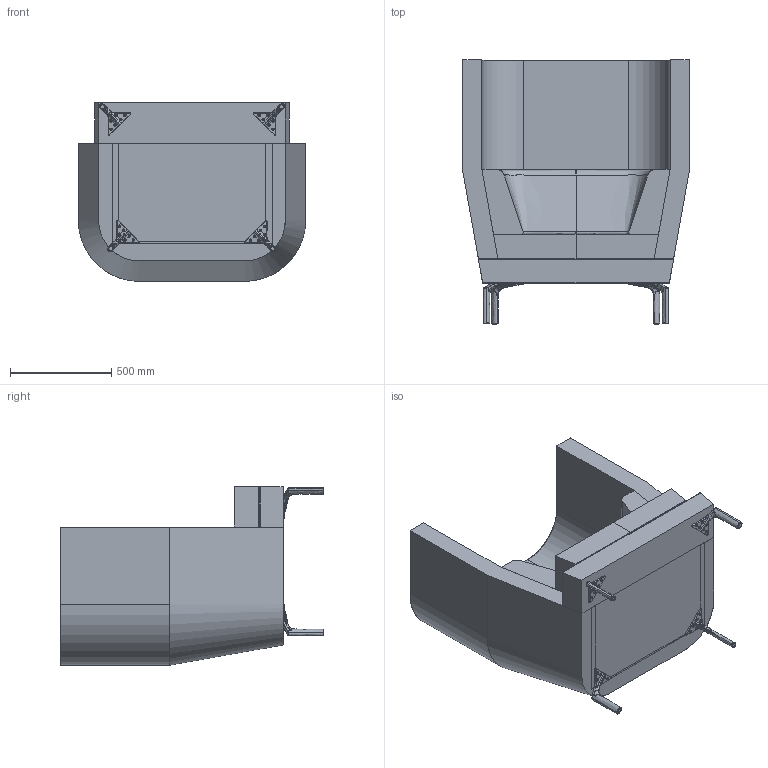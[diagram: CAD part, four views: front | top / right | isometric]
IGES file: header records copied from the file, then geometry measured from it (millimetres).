
Start section: SolidWorks IGES file using analytic representation for surfaces
Global section: file name: P:\3D CAD BLOCKS\ENTENTE\ENT3 - ENTENTE CHAIR\ENT3 - ENTENTE CHAIR.IGS; native system: SolidWorks 2012; preprocessor: SolidWorks 2012; author: adam; date: 140710.123555; units: millimetre
Bounding box: 1120 x 1301.5 x 880 mm (x, y, z)
Surface area: 9845150.5 mm2 (no closed solid volume)
Topology: 0 solids, 0 shells, 584 faces, 7392 edges, 7388 vertices
Faces by surface type: bspline 334, revolution 250
